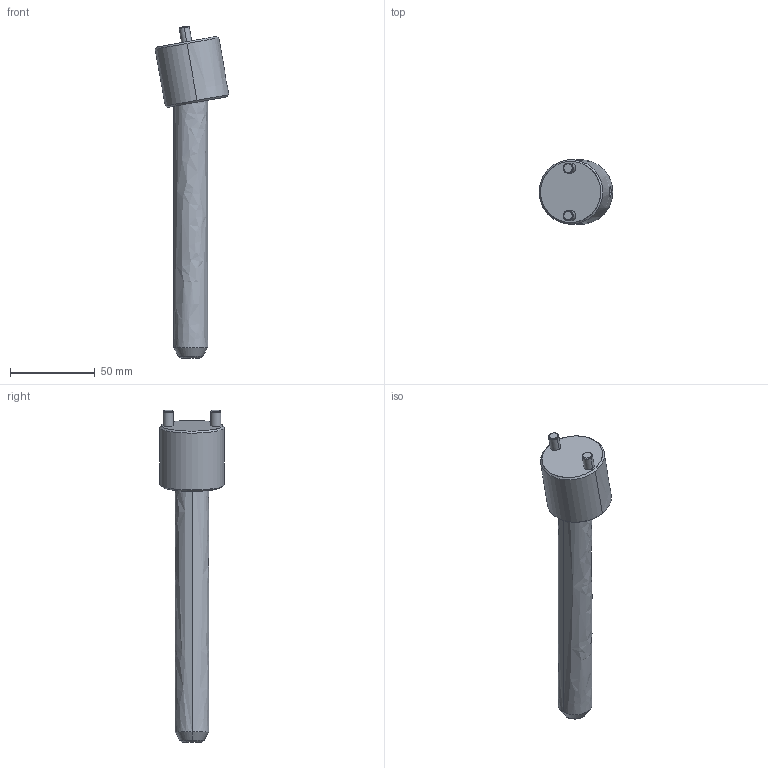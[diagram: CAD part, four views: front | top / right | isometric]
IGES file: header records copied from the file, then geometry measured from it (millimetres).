
Start section: START RECORD GO HERE.
Global section: file name: CI1020150.igs; native system: DASSAULT SYSTEMES CATIA V5 R20 - www.3ds.com; preprocessor: CATIA Version 5 Release 20 ; author: r.borello; organization: CFTORINO; date: 20190621.155559; units: millimetre
Bounding box: 43.33 x 38 x 195.45 mm (x, y, z)
Surface area: 20595.8 mm2 (no closed solid volume)
Topology: 0 solids, 0 shells, 39 faces, 162 edges, 160 vertices
Faces by surface type: revolution 32, plane 7
